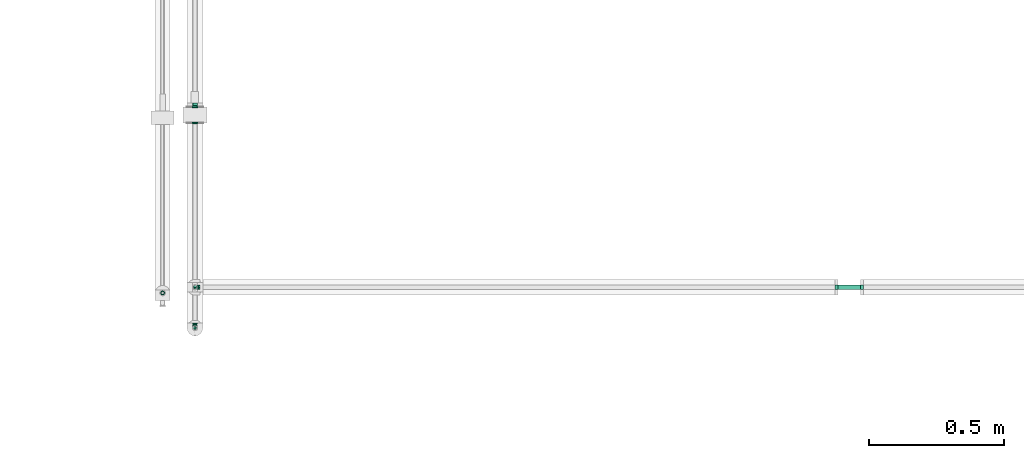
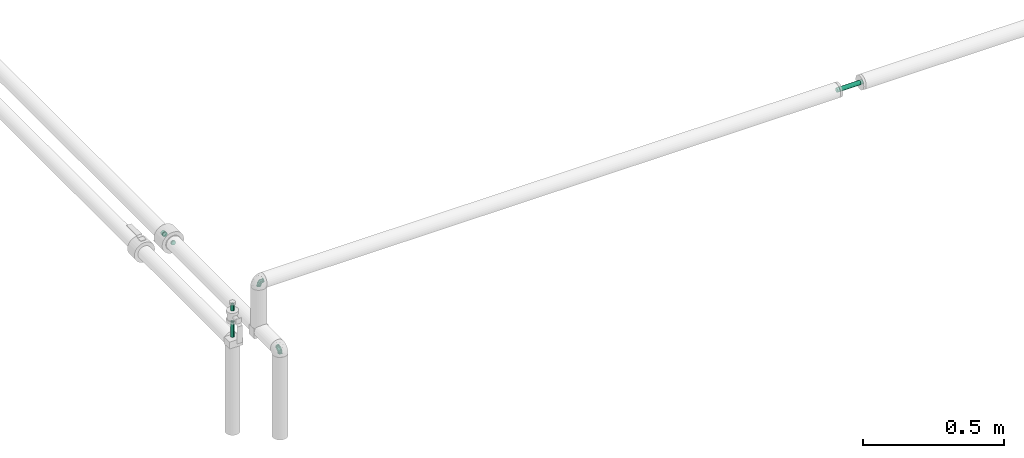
# One storey, part 43 of 78: 7 flow fittings, 4 flow segments.
"""IFC2X3 building model written with IfcOpenShell, lengths in millimetres."""

from ifc_helpers import new_model, entity, si_unit, converted_unit, derived_unit, direction, frame, origin_with_axes, origin_2d_with_axis, place, context, subcontext, project, spatial, hollow_circle, extrude, open_shell, surface_model, source, transform, mapped, type_object, element, save


model = new_model("IFC2X3")

# Units and contexts
model_context = context("Model", 3, precision=0.01, world=frame((0.0, 4.29681676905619e-09, 0.0)), true_north=direction((4.01073788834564e-13, 1.0)))
plan_context = context("Plan", 3, precision=0.01, world=frame((0.0, 4.29681676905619e-09, 0.0)), true_north=direction((4.01073788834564e-13, 1.0)))
body_context = subcontext(model_context, "Body", "Model", "MODEL_VIEW")
ifc_project = project(units=[converted_unit("PLANEANGLEUNIT", "DEGREE", entity("IfcPositiveLengthMeasure", 0.0174532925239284), si_unit("PLANEANGLEUNIT", "RADIAN"), dimensions=[0, 0, 0, 0, 0, 0, 0]), si_unit("AREAUNIT", "SQUARE_METRE"), si_unit("LENGTHUNIT", "METRE", prefix="MILLI"), si_unit("MASSUNIT", "GRAM", prefix="KILO"), si_unit("POWERUNIT", "WATT"), si_unit("PRESSUREUNIT", "PASCAL"), si_unit("FORCEUNIT", "NEWTON", prefix="KILO"), si_unit("ELECTRICVOLTAGEUNIT", "VOLT"), si_unit("ELECTRICCURRENTUNIT", "AMPERE"), si_unit("THERMODYNAMICTEMPERATUREUNIT", "DEGREE_CELSIUS"), si_unit("TIMEUNIT", "SECOND"), si_unit("VOLUMEUNIT", "CUBIC_METRE"), derived_unit("LINEARVELOCITYUNIT", [(si_unit("LENGTHUNIT", "METRE"), 1), (si_unit("TIMEUNIT", "SECOND"), -1)]), derived_unit("VOLUMETRICFLOWRATEUNIT", [(si_unit("VOLUMEUNIT", "CUBIC_METRE"), 1), (si_unit("TIMEUNIT", "SECOND"), -1)]), derived_unit("THERMALTRANSMITTANCEUNIT", [(si_unit("POWERUNIT", "WATT"), 1), (si_unit("THERMODYNAMICTEMPERATUREUNIT", "KELVIN"), -1), (si_unit("AREAUNIT", "SQUARE_METRE"), -1)]), derived_unit("SOUNDPRESSUREUNIT", [(si_unit("PRESSUREUNIT", "PASCAL"), 1)])], contexts=[model_context, plan_context])

# Site, building, storey
site_placement = place(None, frame((0.0, -4.29681676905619e-09, 0.0), z_axis=(0.0, 0.0, 1.0), x_axis=(1.0, 0.0, 0.0)))
site = spatial("IfcSite", under=ifc_project, at=site_placement, Name="ENGM", CompositionType="ELEMENT")
building_placement = place(site_placement, frame((0.0, 4.29681676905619e-09, 0.0), z_axis=(0.0, 0.0, 1.0), x_axis=(1.0, 0.0, 0.0)))
building = spatial("IfcBuilding", under=site, at=building_placement, Name="TH", CompositionType="ELEMENT")
storey_placement = place(building_placement, frame((0.0, 0.0, 205200.0), z_axis=(0.0, 0.0, 1.0), x_axis=(1.0, 0.0, 0.0)))
storey = spatial("IfcBuildingStorey", under=building, at=storey_placement, Name="Nivå D + 1,2 m", CompositionType="ELEMENT", Elevation=205200.0)

# Flow fittings
pipe_fitting_type_1 = type_object("IfcPipeFittingType", Name="magi_pipe_cu_elbow_short_001", PredefinedType="BEND")
shared_shape_1 = source(origin_with_axes(), body_context, "Body", "SurfaceModel", [
    surface_model("IfcShellBasedSurfaceModel", [(-18.0, 4.5, -7.79423), (-18.0, 2.32937, -8.69333), (-18.0, 0.0, -9.0), (-18.0, -6.36396, -6.36396), (-18.0, 8.69333, -2.32937), (-18.0, 7.79423, -4.5), (-18.0, 6.36396, -6.36396), (-18.0, -4.5, -7.79423), (-18.0, -2.32937, -8.69333), (-18.0, -7.79423, -4.5), (-18.0, -8.69333, -2.32937), (-18.0, -9.0, 0.0), (-18.0, 8.69333, 2.32937), (-18.0, -8.69333, 2.32937), (-18.0, 7.79423, 4.5), (-18.0, 6.36396, 6.36396), (-18.0, 2.32937, 8.69333), (-18.0, 4.5, 7.79423), (-18.0, -7.79423, 4.5), (-18.0, -6.36396, 6.36396), (-18.0, -4.5, 7.79423), (-18.0, -2.32937, 8.69333), (-18.0, 0.0, 9.0), (-18.0, 9.0, 0.0), (0.0, 18.0, -9.0), (-2.32937, 18.0, -8.69333), (-4.5, 18.0, -7.79423), (6.36396, 18.0, -6.36396), (-6.36396, 18.0, -6.36396), (-7.79423, 18.0, -4.5), (-8.69333, 18.0, -2.32937), (-8.69333, 18.0, 2.32937), (2.32937, 18.0, -8.69333), (4.5, 18.0, -7.79423), (8.69333, 18.0, -2.32937), (7.79423, 18.0, -4.5), (9.0, 18.0, 0.0), (7.79423, 18.0, 4.5), (-9.0, 18.0, 0.0), (-6.36396, 18.0, 6.36396), (-7.79423, 18.0, 4.5), (-4.5, 18.0, 7.79423), (-2.32937, 18.0, 8.69333), (6.36396, 18.0, 6.36396), (8.69333, 18.0, 2.32937), (2.32937, 18.0, 8.69333), (4.5, 18.0, 7.79423), (0.0, 18.0, 9.0), (-16.09014, -8.48825, 0.0), (-10.51068, -2.97249, 7.92278), (-10.36056, -6.95302, 0.0), (-4.5, -5.38269, 0.0), (0.44134, -0.44134, 0.0), (2.91201, 2.02933, 0.0), (-2.70211, 1.18586, 7.65564), (-2.02933, -2.91201, 0.0), (-14.18028, -7.97651, 0.0), (-7.11648, 7.11648, 8.61373), (-4.93977, 9.63211, 8.64898), (2.97249, 10.51068, 7.92278), (2.01286, 5.84889, 7.1903), (5.38269, 4.5, 0.0), (-5.73616, -2.07922, 7.10204), (8.48825, 16.09014, 0.0), (7.97651, 14.18028, 0.0), (-9.63211, 4.93977, 8.64898), (-10.31802, 14.81802, 0.0), (-14.81802, 10.31802, 0.0), (-11.63604, 11.63604, 0.0), (6.95302, 10.36056, 0.0), (-10.51068, -2.97249, -7.92278), (-4.93977, 9.63211, -8.64898), (0.8585, 4.1248, -7.1903), (-2.68792, 2.14037, -8.03971), (2.97249, 10.51068, -7.92278), (-13.67048, 7.29638, -6.27272), (-8.50355, 2.18787, -8.98901), (-9.83427, 8.11209, -7.36254)], [open_shell([[[0, 1, 2]], [[0, 2, 3]], [[0, 4, 5]], [[6, 0, 5]], [[4, 0, 3]], [[7, 3, 8]], [[3, 2, 8]], [[9, 10, 3]], [[11, 3, 10]], [[3, 11, 4]], [[11, 12, 4]], [[12, 11, 13]], [[14, 12, 15]], [[16, 17, 15]], [[13, 15, 12]], [[15, 18, 16]], [[18, 19, 16]], [[15, 13, 18]], [[20, 21, 19]], [[22, 19, 21]], [[16, 19, 22]], [[23, 4, 12]], [[24, 25, 26]], [[27, 24, 26]], [[28, 29, 30]], [[28, 30, 26]], [[26, 31, 27]], [[32, 27, 33]], [[32, 24, 27]], [[27, 34, 35]], [[34, 27, 36]], [[27, 37, 36]], [[26, 30, 38]], [[27, 31, 37]], [[39, 31, 40]], [[39, 41, 42]], [[39, 42, 31]], [[43, 31, 42]], [[31, 43, 37]], [[44, 36, 37]], [[43, 45, 46]], [[45, 43, 47]], [[47, 43, 42]], [[31, 26, 38]], [[13, 48, 18]], [[49, 50, 51]], [[52, 53, 54]], [[54, 55, 52]], [[20, 19, 56]], [[18, 56, 19]], [[57, 54, 58]], [[20, 50, 21]], [[22, 21, 50]], [[59, 60, 61]], [[59, 58, 60]], [[55, 54, 62]], [[22, 50, 49]], [[22, 49, 16]], [[62, 49, 51]], [[62, 51, 55]], [[37, 63, 44]], [[49, 17, 16]], [[64, 63, 37]], [[12, 65, 23]], [[14, 15, 49]], [[54, 65, 62]], [[17, 49, 15]], [[58, 38, 66]], [[67, 57, 68]], [[53, 60, 54]], [[45, 47, 69]], [[69, 46, 45]], [[39, 59, 41]], [[42, 59, 47]], [[43, 46, 64]], [[68, 57, 66]], [[64, 46, 69]], [[61, 60, 53]], [[44, 63, 36]], [[59, 61, 69]], [[38, 58, 31]], [[20, 56, 50]], [[54, 57, 65]], [[49, 65, 14]], [[66, 57, 58]], [[64, 37, 43]], [[40, 31, 58]], [[14, 65, 12]], [[39, 40, 59]], [[13, 11, 48]], [[40, 58, 59]], [[48, 56, 18]], [[41, 59, 42]], [[59, 69, 47]], [[49, 62, 65]], [[57, 67, 65]], [[54, 60, 58]], [[67, 23, 65]], [[70, 50, 2]], [[71, 72, 73]], [[74, 71, 29]], [[70, 1, 0]], [[70, 51, 50]], [[34, 36, 63]], [[75, 6, 5]], [[75, 4, 23]], [[5, 4, 75]], [[51, 76, 55]], [[75, 23, 67]], [[70, 6, 75]], [[48, 11, 10]], [[7, 56, 3]], [[2, 50, 8]], [[51, 70, 76]], [[56, 7, 50]], [[7, 8, 50]], [[70, 2, 1]], [[66, 38, 71]], [[52, 72, 53]], [[6, 70, 0]], [[70, 75, 76]], [[73, 52, 55]], [[71, 68, 66]], [[61, 53, 72]], [[33, 64, 69]], [[30, 71, 38]], [[28, 74, 29]], [[56, 9, 3]], [[26, 25, 74]], [[63, 64, 35]], [[56, 48, 9]], [[26, 74, 28]], [[9, 48, 10]], [[24, 74, 25]], [[32, 69, 24]], [[29, 71, 30]], [[27, 64, 33]], [[69, 32, 33]], [[68, 71, 77]], [[74, 24, 69]], [[35, 34, 63]], [[61, 72, 74]], [[61, 74, 69]], [[67, 77, 75]], [[74, 72, 71]], [[35, 64, 27]], [[76, 77, 73]], [[75, 77, 76]], [[77, 71, 73]], [[55, 76, 73]], [[72, 52, 73]], [[77, 67, 68]]])]),
])
for number, where, z_axis, x_axis, name in (
    (1, (900010.50163, 478124.37013, 4210.0), (-1.0, 0.0, 0.0), (0.0, 0.0, 1.0), "magi_pipe_cu_elbow_short_001"),
    (2, (900010.50163, 478275.49112, 4410.0), (0.0, 1.0, 0.0), (0.0, 0.0, 1.0), "magi_pipe_cu_elbow_short_001"),
):
    element("IfcFlowFitting", number, at=place(storey_placement, frame(where, z_axis=z_axis, x_axis=x_axis)), inside=storey, type_object=pipe_fitting_type_1, Name=name, context=body_context, shape_type="MappedRepresentation", body=[
        mapped(shared_shape_1, transform((0.0, 0.0, 0.0), scale=1.0)),
    ])
pipe_fitting_type_2 = type_object("IfcPipeFittingType", Name="magi_pipe_cu_reducer_centric_short_001", PredefinedType="TRANSITION")
shared_shape_2 = source(origin_with_axes(), body_context, "Body", "SurfaceModel", [
    surface_model("IfcShellBasedSurfaceModel", [(4.0, 4.5, -7.79423), (4.0, -6.36396, -6.36396), (4.0, 2.32937, -8.69333), (4.0, 8.69333, -2.32937), (4.0, 6.36396, -6.36396), (4.0, 7.79423, -4.5), (4.0, 7.79423, 4.5), (4.0, -8.69333, -2.32937), (4.0, 0.0, -9.0), (4.0, -4.5, -7.79423), (4.0, -2.32937, -8.69333), (4.0, -7.79423, -4.5), (4.0, 9.0, 0.0), (4.0, 8.69333, 2.32937), (4.0, -9.0, 0.0), (4.0, 0.0, 9.0), (4.0, 6.36396, 6.36396), (4.0, 4.5, 7.79423), (4.0, 2.32937, 8.69333), (4.0, -6.36396, 6.36396), (4.0, -8.69333, 2.32937), (4.0, -7.79423, 4.5), (4.0, -2.32937, 8.69333), (4.0, -4.5, 7.79423), (2.0, 0.0, 9.0), (2.0, 2.32937, 8.69333), (2.0, 4.5, 7.79423), (2.0, 6.36396, 6.36396), (2.0, -9.0, 0.0), (2.0, -8.69333, -2.32937), (2.0, 7.79423, 4.5), (2.0, -2.32937, 8.69333), (2.0, -6.36396, 6.36396), (2.0, -4.5, 7.79423), (2.0, -8.69333, 2.32937), (2.0, -7.79423, 4.5), (2.0, 8.69333, 2.32937), (2.0, 8.69333, -2.32937), (2.0, 6.36396, -6.36396), (2.0, 7.79423, -4.5), (2.0, 4.5, -7.79423), (2.0, 2.32937, -8.69333), (2.0, -4.5, -7.79423), (2.0, -6.36396, -6.36396), (2.0, -7.79423, -4.5), (2.0, 0.0, -9.0), (2.0, -2.32937, -8.69333), (2.0, 9.0, 0.0), (-2.0, 2.58819, 9.65926), (-2.0, -8.66025, 5.0), (-2.0, 0.0, 10.0), (-2.0, 5.0, 8.66025), (-2.0, -9.65926, -2.58819), (-2.0, 7.07107, -7.07107), (-2.0, 7.07107, 7.07107), (-2.0, 8.66025, 5.0), (-2.0, -9.65926, 2.58819), (-2.0, -2.58819, 9.65926), (-2.0, -7.07107, 7.07107), (-2.0, -5.0, 8.66025), (-2.0, -10.0, 0.0), (-2.0, 9.65926, 2.58819), (-2.0, 10.0, 0.0), (-2.0, 9.65926, -2.58819), (-2.0, 8.66025, -5.0), (-2.0, 5.0, -8.66025), (-2.0, -5.0, -8.66025), (-2.0, 0.0, -10.0), (-2.0, 2.58819, -9.65926), (-2.0, -7.07107, -7.07107), (-2.0, -8.66025, -5.0), (-2.0, -2.58819, -9.65926), (0.0, 5.0, -8.66025), (0.0, 0.0, -10.0), (0.0, 2.58819, -9.65926), (0.0, -10.0, 0.0), (0.0, 8.66025, 5.0), (0.0, 8.66025, -5.0), (0.0, 9.65926, -2.58819), (0.0, 7.07107, 7.07107), (0.0, 7.07107, -7.07107), (0.0, -5.0, -8.66025), (0.0, -2.58819, -9.65926), (0.0, -7.07107, -7.07107), (0.0, -9.65926, -2.58819), (0.0, -8.66025, -5.0), (0.0, 10.0, 0.0), (0.0, -9.65926, 2.58819), (0.0, 2.58819, 9.65926), (0.0, 5.0, 8.66025), (0.0, -8.66025, 5.0), (0.0, 0.0, 10.0), (0.0, -7.07107, 7.07107), (0.0, -2.58819, 9.65926), (0.0, -5.0, 8.66025), (0.0, 9.65926, 2.58819)], [open_shell([[[0, 1, 2]], [[3, 0, 4]], [[1, 0, 3]], [[3, 4, 5]], [[6, 7, 3]], [[8, 9, 10]], [[9, 8, 1]], [[1, 7, 11]], [[1, 8, 2]], [[3, 7, 1]], [[3, 12, 13]], [[14, 7, 6]], [[15, 6, 16]], [[17, 18, 15]], [[17, 15, 16]], [[19, 6, 15]], [[20, 19, 21]], [[19, 20, 14]], [[19, 22, 23]], [[19, 14, 6]], [[15, 22, 19]], [[6, 3, 13]], [[24, 25, 26]], [[24, 26, 27]], [[28, 24, 29]], [[30, 24, 27]], [[30, 29, 24]], [[31, 32, 33]], [[31, 24, 32]], [[32, 34, 35]], [[34, 32, 28]], [[24, 28, 32]], [[30, 36, 37]], [[29, 30, 37]], [[38, 37, 39]], [[37, 40, 29]], [[40, 37, 38]], [[41, 42, 40]], [[29, 43, 44]], [[29, 40, 43]], [[42, 45, 46]], [[42, 43, 40]], [[45, 42, 41]], [[37, 36, 47]], [[29, 7, 28]], [[44, 11, 29]], [[9, 43, 42]], [[44, 43, 1]], [[10, 42, 46]], [[29, 11, 7]], [[7, 14, 28]], [[10, 9, 42]], [[1, 43, 9]], [[1, 11, 44]], [[8, 10, 46]], [[46, 45, 8]], [[41, 2, 45]], [[40, 0, 41]], [[5, 38, 39]], [[40, 38, 4]], [[3, 39, 37]], [[40, 4, 0]], [[0, 2, 41]], [[12, 3, 37]], [[5, 39, 3]], [[5, 4, 38]], [[47, 12, 37]], [[45, 2, 8]], [[36, 13, 47]], [[30, 6, 36]], [[17, 27, 26]], [[30, 27, 16]], [[18, 26, 25]], [[36, 6, 13]], [[13, 12, 47]], [[18, 17, 26]], [[16, 27, 17]], [[16, 6, 30]], [[15, 18, 25]], [[25, 24, 15]], [[31, 22, 24]], [[33, 23, 31]], [[21, 32, 35]], [[33, 32, 19]], [[20, 35, 34]], [[33, 19, 23]], [[23, 22, 31]], [[14, 20, 34]], [[21, 35, 20]], [[21, 19, 32]], [[28, 14, 34]], [[24, 22, 15]], [[48, 49, 50]], [[51, 52, 48]], [[53, 54, 55]], [[51, 54, 52]], [[48, 52, 56]], [[57, 58, 59]], [[58, 57, 49]], [[48, 56, 49]], [[49, 57, 50]], [[52, 60, 56]], [[55, 61, 62]], [[62, 63, 64]], [[64, 53, 55]], [[54, 65, 66]], [[54, 53, 65]], [[67, 65, 68]], [[52, 69, 70]], [[69, 52, 66]], [[66, 67, 71]], [[52, 54, 66]], [[65, 67, 66]], [[62, 64, 55]], [[72, 73, 74]], [[75, 73, 72]], [[76, 77, 78]], [[79, 72, 80]], [[76, 80, 77]], [[73, 81, 82]], [[81, 73, 75]], [[83, 84, 85]], [[84, 83, 81]], [[81, 75, 84]], [[76, 78, 86]], [[76, 79, 80]], [[72, 79, 87]], [[87, 79, 88]], [[88, 79, 89]], [[90, 88, 91]], [[88, 90, 87]], [[75, 72, 87]], [[92, 93, 94]], [[93, 92, 90]], [[93, 90, 91]], [[76, 86, 95]], [[52, 84, 60]], [[70, 85, 52]], [[81, 69, 66]], [[70, 69, 83]], [[82, 66, 71]], [[52, 85, 84]], [[84, 75, 60]], [[82, 81, 66]], [[83, 69, 81]], [[83, 85, 70]], [[73, 82, 71]], [[71, 67, 73]], [[68, 74, 67]], [[65, 72, 68]], [[77, 53, 64]], [[65, 53, 80]], [[78, 64, 63]], [[65, 80, 72]], [[72, 74, 68]], [[86, 78, 63]], [[77, 64, 78]], [[77, 80, 53]], [[62, 86, 63]], [[67, 74, 73]], [[61, 95, 62]], [[55, 76, 61]], [[89, 54, 51]], [[55, 54, 79]], [[88, 51, 48]], [[61, 76, 95]], [[95, 86, 62]], [[88, 89, 51]], [[79, 54, 89]], [[79, 76, 55]], [[91, 88, 48]], [[48, 50, 91]], [[57, 93, 50]], [[59, 94, 57]], [[90, 58, 49]], [[59, 58, 92]], [[87, 49, 56]], [[59, 92, 94]], [[94, 93, 57]], [[75, 87, 56]], [[90, 49, 87]], [[90, 92, 58]], [[60, 75, 56]], [[50, 93, 91]], [[26, 33, 47]], [[47, 33, 42]], [[42, 40, 47]], [[42, 33, 28]], [[89, 75, 94]], [[75, 89, 72]], [[72, 81, 75]], [[72, 89, 86]], [[47, 40, 86]], [[72, 86, 40]], [[40, 42, 72]], [[42, 28, 81]], [[75, 81, 28]], [[42, 81, 72]], [[28, 33, 75]], [[94, 75, 33]], [[33, 26, 94]], [[26, 47, 89]], [[86, 89, 47]], [[26, 89, 94]]])]),
])
flow_fitting_1_placement = place(storey_placement, frame((900010.50163, 478884.96045, 4210.0), z_axis=(0.0, 0.0, 1.0), x_axis=(0.0, -1.0, 0.0)))
element("IfcFlowFitting", 3, at=flow_fitting_1_placement, inside=storey, type_object=pipe_fitting_type_2, Name="magi_pipe_cu_reducer_centric_short_001", context=body_context, shape_type="MappedRepresentation", body=[
    mapped(shared_shape_2, transform((0.0, 0.0, 0.0), scale=1.0)),
])
pipe_fitting_type_3 = type_object("IfcPipeFittingType", Name="magi_pipe_cu_joint_001", PredefinedType="CONNECTOR")
shared_shape_3 = source(origin_with_axes(), body_context, "Body", "SurfaceModel", [
    surface_model("IfcShellBasedSurfaceModel", [(0.0, 4.5, -7.79423), (0.0, 2.32937, -8.69333), (0.0, 0.0, -9.0), (0.0, -9.0, 0.0), (0.0, -4.5, 7.79423), (0.0, 6.36396, -6.36396), (0.0, 7.79423, -4.5), (0.0, 9.0, 0.0), (0.0, -4.5, -7.79423), (0.0, -6.36396, -6.36396), (0.0, -2.32937, -8.69333), (0.0, -7.79423, -4.5), (0.0, -8.69333, -2.32937), (0.0, 8.69333, -2.32937), (0.0, 8.69333, 2.32937), (0.0, 2.32937, 8.69333), (0.0, 7.79423, 4.5), (0.0, 4.5, 7.79423), (0.0, 6.36396, 6.36396), (0.0, 0.0, 9.0), (0.0, -6.36396, 6.36396), (0.0, -7.79423, 4.5), (0.0, -8.69333, 2.32937), (0.0, -2.32937, 8.69333), (10.0, 0.0, -9.0), (10.0, 2.32937, -8.69333), (10.0, 4.5, -7.79423), (10.0, -9.0, 0.0), (10.0, -4.5, 7.79423), (10.0, 7.79423, -4.5), (10.0, 6.36396, -6.36396), (10.0, 8.69333, 2.32937), (10.0, -4.5, -7.79423), (10.0, -2.32937, -8.69333), (10.0, -6.36396, -6.36396), (10.0, -8.69333, -2.32937), (10.0, -7.79423, -4.5), (10.0, 8.69333, -2.32937), (10.0, 9.0, 0.0), (10.0, 2.32937, 8.69333), (10.0, 7.79423, 4.5), (10.0, 4.5, 7.79423), (10.0, 6.36396, 6.36396), (10.0, -7.79423, 4.5), (10.0, -6.36396, 6.36396), (10.0, -8.69333, 2.32937), (10.0, 0.0, 9.0), (10.0, -2.32937, 8.69333)], [open_shell([[[0, 1, 2]], [[2, 3, 4]], [[0, 2, 4]], [[5, 0, 6]], [[7, 6, 0]], [[8, 9, 10]], [[9, 2, 10]], [[11, 12, 9]], [[3, 9, 12]], [[9, 3, 2]], [[7, 13, 6]], [[14, 7, 15]], [[16, 14, 15]], [[16, 15, 17]], [[18, 16, 17]], [[19, 15, 7]], [[20, 4, 21]], [[3, 22, 21]], [[23, 19, 4]], [[21, 4, 3]], [[0, 4, 19]], [[19, 7, 0]], [[24, 25, 26]], [[27, 24, 26]], [[27, 26, 28]], [[29, 26, 30]], [[26, 29, 31]], [[24, 32, 33]], [[24, 34, 32]], [[34, 35, 36]], [[35, 34, 27]], [[24, 27, 34]], [[29, 37, 38]], [[28, 26, 31]], [[39, 31, 40]], [[41, 39, 40]], [[41, 40, 42]], [[28, 31, 39]], [[43, 28, 44]], [[43, 45, 27]], [[28, 46, 47]], [[27, 28, 43]], [[39, 46, 28]], [[29, 38, 31]], [[45, 3, 27]], [[43, 22, 45]], [[20, 44, 28]], [[43, 44, 21]], [[4, 28, 47]], [[43, 21, 22]], [[22, 3, 45]], [[23, 46, 19]], [[23, 4, 47]], [[20, 28, 4]], [[20, 21, 44]], [[46, 23, 47]], [[41, 15, 39]], [[42, 17, 41]], [[16, 40, 31]], [[42, 40, 18]], [[14, 31, 38]], [[41, 17, 15]], [[15, 19, 39]], [[14, 16, 31]], [[18, 40, 16]], [[18, 17, 42]], [[7, 14, 38]], [[39, 19, 46]], [[37, 7, 38]], [[29, 13, 37]], [[5, 30, 26]], [[29, 30, 6]], [[0, 26, 25]], [[29, 6, 13]], [[13, 7, 37]], [[1, 24, 2]], [[1, 0, 25]], [[5, 26, 0]], [[5, 6, 30]], [[24, 1, 25]], [[32, 10, 33]], [[34, 8, 32]], [[11, 36, 35]], [[34, 36, 9]], [[12, 35, 27]], [[32, 8, 10]], [[10, 2, 33]], [[12, 11, 35]], [[9, 36, 11]], [[9, 8, 34]], [[3, 12, 27]], [[33, 2, 24]]])]),
])
for number, where, z_axis, x_axis, name in (
    (4, (900010.50163, 478957.96045, 4210.0), (0.0, 0.0, 1.0), (0.0, -1.0, 0.0), "magi_pipe_cu_joint_001"),
    (5, (902383.50163, 478275.49112, 4410.0), (0.0, 0.0, 1.0), (1.0, 0.0, 0.0), "magi_pipe_cu_joint_001"),
    (6, (902478.50163, 478275.49112, 4410.0), (0.0, 0.0, 1.0), (1.0, 0.0, 0.0), "magi_pipe_cu_joint_001"),
):
    element("IfcFlowFitting", number, at=place(storey_placement, frame(where, z_axis=z_axis, x_axis=x_axis)), inside=storey, type_object=pipe_fitting_type_3, Name=name, context=body_context, shape_type="MappedRepresentation", body=[
        mapped(shared_shape_3, transform((0.0, 0.0, 0.0), scale=1.0)),
    ])
shared_shape_4 = source(origin_with_axes(), body_context, "Body", "SurfaceModel", [
    surface_model("IfcShellBasedSurfaceModel", [(-2.0, 0.0, 9.0), (-2.0, 2.32937, 8.69333), (-2.0, 4.5, 7.79423), (-2.0, 6.36396, 6.36396), (-2.0, -9.0, 0.0), (-2.0, -8.69333, -2.32937), (-2.0, 7.79423, 4.5), (-2.0, -2.32937, 8.69333), (-2.0, -6.36396, 6.36396), (-2.0, -4.5, 7.79423), (-2.0, -8.69333, 2.32937), (-2.0, -7.79423, 4.5), (-2.0, 8.69333, 2.32937), (-2.0, 8.69333, -2.32937), (-2.0, 6.36396, -6.36396), (-2.0, 7.79423, -4.5), (-2.0, 4.5, -7.79423), (-2.0, 2.32937, -8.69333), (-2.0, -4.5, -7.79423), (-2.0, -6.36396, -6.36396), (-2.0, -7.79423, -4.5), (-2.0, 0.0, -9.0), (-2.0, -2.32937, -8.69333), (-2.0, 9.0, 0.0), (0.0, 4.5, -7.79423), (0.0, -6.36396, -6.36396), (0.0, 2.32937, -8.69333), (0.0, 8.69333, -2.32937), (0.0, 6.36396, -6.36396), (0.0, 7.79423, -4.5), (0.0, 7.79423, 4.5), (0.0, -8.69333, -2.32937), (0.0, 0.0, -9.0), (0.0, -4.5, -7.79423), (0.0, -2.32937, -8.69333), (0.0, -7.79423, -4.5), (0.0, 9.0, 0.0), (0.0, 8.69333, 2.32937), (0.0, -9.0, 0.0), (0.0, 0.0, 9.0), (0.0, 6.36396, 6.36396), (0.0, 4.5, 7.79423), (0.0, 2.32937, 8.69333), (0.0, -6.36396, 6.36396), (0.0, -8.69333, 2.32937), (0.0, -7.79423, 4.5), (0.0, -2.32937, 8.69333), (0.0, -4.5, 7.79423), (4.0, 2.58819, -9.65926), (4.0, 5.0, -8.66025), (4.0, 7.07107, -7.07107), (4.0, 8.66025, -5.0), (4.0, 9.65926, -2.58819), (4.0, 10.0, 0.0), (4.0, -8.66025, 5.0), (4.0, -2.58819, -9.65926), (4.0, -8.66025, -5.0), (4.0, -5.0, -8.66025), (4.0, 0.0, -10.0), (4.0, -7.07107, -7.07107), (4.0, -10.0, 0.0), (4.0, -9.65926, -2.58819), (4.0, 9.65926, 2.58819), (4.0, 8.66025, 5.0), (4.0, 7.07107, 7.07107), (4.0, 5.0, 8.66025), (4.0, 2.58819, 9.65926), (4.0, 0.0, 10.0), (4.0, -7.07107, 7.07107), (4.0, -9.65926, 2.58819), (4.0, -5.0, 8.66025), (4.0, -2.58819, 9.65926), (2.0, 0.0, 10.0), (2.0, 2.58819, 9.65926), (2.0, 5.0, 8.66025), (2.0, -5.0, 8.66025), (2.0, 7.07107, 7.07107), (2.0, 8.66025, 5.0), (2.0, 9.65926, 2.58819), (2.0, -9.65926, 2.58819), (2.0, -7.07107, 7.07107), (2.0, -2.58819, 9.65926), (2.0, -8.66025, 5.0), (2.0, -10.0, 0.0), (2.0, 10.0, 0.0), (2.0, 9.65926, -2.58819), (2.0, 8.66025, -5.0), (2.0, 2.58819, -9.65926), (2.0, 7.07107, -7.07107), (2.0, 5.0, -8.66025), (2.0, -2.58819, -9.65926), (2.0, -9.65926, -2.58819), (2.0, -7.07107, -7.07107), (2.0, -8.66025, -5.0), (2.0, -5.0, -8.66025), (2.0, 0.0, -10.0)], [open_shell([[[0, 1, 2]], [[0, 2, 3]], [[4, 0, 5]], [[6, 0, 3]], [[6, 5, 0]], [[7, 8, 9]], [[7, 0, 8]], [[8, 10, 11]], [[10, 8, 4]], [[0, 4, 8]], [[6, 12, 13]], [[5, 6, 13]], [[14, 13, 15]], [[13, 16, 5]], [[16, 13, 14]], [[17, 18, 16]], [[5, 19, 20]], [[5, 16, 19]], [[18, 21, 22]], [[18, 19, 16]], [[21, 18, 17]], [[13, 12, 23]], [[24, 25, 26]], [[27, 24, 28]], [[25, 24, 27]], [[27, 28, 29]], [[30, 31, 27]], [[32, 33, 34]], [[33, 32, 25]], [[25, 31, 35]], [[25, 32, 26]], [[27, 31, 25]], [[27, 36, 37]], [[38, 31, 30]], [[39, 30, 40]], [[41, 42, 39]], [[41, 39, 40]], [[43, 30, 39]], [[44, 43, 45]], [[43, 44, 38]], [[43, 46, 47]], [[43, 38, 30]], [[39, 46, 43]], [[30, 27, 37]], [[5, 31, 4]], [[20, 35, 5]], [[33, 19, 18]], [[20, 19, 25]], [[34, 18, 22]], [[5, 35, 31]], [[31, 38, 4]], [[34, 33, 18]], [[25, 19, 33]], [[25, 35, 20]], [[32, 34, 22]], [[22, 21, 32]], [[17, 26, 21]], [[16, 24, 17]], [[29, 14, 15]], [[16, 14, 28]], [[27, 15, 13]], [[16, 28, 24]], [[24, 26, 17]], [[36, 27, 13]], [[29, 15, 27]], [[29, 28, 14]], [[23, 36, 13]], [[21, 26, 32]], [[12, 37, 23]], [[6, 30, 12]], [[41, 3, 2]], [[6, 3, 40]], [[42, 2, 1]], [[12, 30, 37]], [[37, 36, 23]], [[42, 41, 2]], [[40, 3, 41]], [[40, 30, 6]], [[39, 42, 1]], [[1, 0, 39]], [[7, 46, 0]], [[9, 47, 7]], [[45, 8, 11]], [[9, 8, 43]], [[44, 11, 10]], [[9, 43, 47]], [[47, 46, 7]], [[38, 44, 10]], [[45, 11, 44]], [[45, 43, 8]], [[4, 38, 10]], [[0, 46, 39]], [[48, 49, 50]], [[48, 50, 51]], [[52, 53, 48]], [[52, 48, 51]], [[54, 55, 48]], [[55, 56, 57]], [[55, 58, 48]], [[57, 56, 59]], [[56, 55, 54]], [[60, 61, 56]], [[54, 48, 53]], [[62, 63, 64]], [[62, 64, 65]], [[65, 66, 67]], [[62, 65, 54]], [[68, 65, 67]], [[60, 54, 69]], [[56, 54, 60]], [[67, 70, 68]], [[54, 65, 68]], [[71, 70, 67]], [[54, 53, 62]], [[72, 73, 74]], [[75, 72, 74]], [[76, 77, 78]], [[75, 74, 76]], [[75, 76, 78]], [[75, 79, 80]], [[75, 81, 72]], [[80, 79, 82]], [[79, 75, 83]], [[78, 83, 75]], [[78, 84, 83]], [[84, 85, 86]], [[84, 86, 87]], [[88, 89, 87]], [[88, 87, 86]], [[87, 90, 83]], [[91, 92, 93]], [[92, 91, 94]], [[91, 90, 94]], [[83, 90, 91]], [[87, 95, 90]], [[83, 84, 87]], [[91, 61, 83]], [[93, 56, 91]], [[57, 92, 94]], [[93, 92, 59]], [[55, 94, 90]], [[91, 56, 61]], [[61, 60, 83]], [[55, 57, 94]], [[59, 92, 57]], [[59, 56, 93]], [[58, 55, 90]], [[90, 95, 58]], [[87, 48, 95]], [[89, 49, 87]], [[51, 88, 86]], [[89, 88, 50]], [[52, 86, 85]], [[89, 50, 49]], [[49, 48, 87]], [[53, 52, 85]], [[51, 86, 52]], [[51, 50, 88]], [[84, 53, 85]], [[95, 48, 58]], [[78, 62, 84]], [[77, 63, 78]], [[65, 76, 74]], [[77, 76, 64]], [[66, 74, 73]], [[78, 63, 62]], [[62, 53, 84]], [[66, 65, 74]], [[64, 76, 65]], [[64, 63, 77]], [[67, 66, 73]], [[73, 72, 67]], [[81, 71, 72]], [[75, 70, 81]], [[54, 80, 82]], [[75, 80, 68]], [[69, 82, 79]], [[75, 68, 70]], [[70, 71, 81]], [[60, 69, 79]], [[54, 82, 69]], [[54, 68, 80]], [[83, 60, 79]], [[72, 71, 67]], [[74, 89, 84]], [[83, 74, 75]], [[83, 94, 89]], [[83, 89, 74]], [[38, 47, 33]], [[36, 47, 41]], [[36, 24, 33]], [[36, 33, 47]], [[38, 33, 94]], [[94, 83, 38]], [[33, 89, 94]], [[24, 36, 84]], [[84, 89, 24]], [[24, 89, 33]], [[36, 41, 74]], [[74, 84, 36]], [[41, 75, 74]], [[47, 38, 83]], [[83, 75, 47]], [[47, 75, 41]]])]),
])
flow_fitting_2_placement = place(storey_placement, frame((900010.50163, 478944.96045, 4210.0), z_axis=(0.0, 0.0, 1.0), x_axis=(0.0, -1.0, 0.0)))
element("IfcFlowFitting", 7, at=flow_fitting_2_placement, inside=storey, type_object=pipe_fitting_type_2, Name="magi_pipe_cu_reducer_centric_short_001", context=body_context, shape_type="MappedRepresentation", body=[
    mapped(shared_shape_4, transform((0.0, 0.0, 0.0), scale=1.0)),
])

# Flow segments
pipe_segment_type = type_object("IfcPipeSegmentType", Name="Kobberrør", PredefinedType="RIGIDSEGMENT")
shared_shape_5 = source(origin_with_axes(), body_context, "Body", "SweptSolid", [
    extrude(hollow_circle(Radius=9.0, WallThickness=2.0, at=origin_2d_with_axis()), frame((0.0, 0.0, 0.0), z_axis=(1.0, 0.0, 0.0), x_axis=(0.0, 1.0, 0.0)), (0.0, 0.0, 1.0), 3.0),
])
flow_segment_1_placement = place(storey_placement, frame((900010.50163, 478947.96045, 4210.0), z_axis=(0.0, 0.0, 1.0), x_axis=(0.0, -1.0, 0.0)))
element("IfcFlowSegment", 8, at=flow_segment_1_placement, inside=storey, type_object=pipe_segment_type, Name="Kobberrør", context=body_context, shape_type="MappedRepresentation", body=[
    mapped(shared_shape_5, transform((0.0, 0.0, 0.0), scale=1.0)),
])
shared_shape_6 = source(origin_with_axes(), body_context, "Body", "SweptSolid", [
    extrude(hollow_circle(Radius=9.0, WallThickness=2.0, at=origin_2d_with_axis()), frame((0.0, 0.0, 0.0), z_axis=(1.0, 0.0, 0.0), x_axis=(0.0, 1.0, 0.0)), (0.0, 0.0, 1.0), 85.0),
])
flow_segment_2_placement = place(storey_placement, frame((902393.50163, 478275.49112, 4410.0), z_axis=(0.0, 0.0, 1.0), x_axis=(1.0, 0.0, 0.0)))
element("IfcFlowSegment", 9, at=flow_segment_2_placement, inside=storey, type_object=pipe_segment_type, Name="Kobberrør", context=body_context, shape_type="MappedRepresentation", body=[
    mapped(shared_shape_6, transform((0.0, 0.0, 0.0), scale=1.0)),
])
shared_shape_7 = source(origin_with_axes(), body_context, "Body", "SweptSolid", [
    extrude(hollow_circle(Radius=7.5, WallThickness=2.0, at=origin_2d_with_axis()), frame((0.0, 0.0, 0.0), z_axis=(1.0, 0.0, 0.0), x_axis=(0.0, 1.0, 0.0)), (0.0, 0.0, 1.0), 26.2),
])
flow_segment_3_placement = place(storey_placement, frame((899890.50163, 478254.37338, 4341.59280000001), z_axis=(0.0, -1.0, 0.0), x_axis=(0.0, 0.0, 1.0)))
element("IfcFlowSegment", 10, at=flow_segment_3_placement, inside=storey, type_object=pipe_segment_type, Name="Kobberrør", context=body_context, shape_type="MappedRepresentation", body=[
    mapped(shared_shape_7, transform((0.0, 0.0, 0.0), scale=1.0)),
])
shared_shape_8 = source(origin_with_axes(), body_context, "Body", "SweptSolid", [
    extrude(hollow_circle(Radius=7.5, WallThickness=2.0, at=origin_2d_with_axis()), frame((0.0, 0.0, 0.0), z_axis=(1.0, 0.0, 0.0), x_axis=(0.0, 1.0, 0.0)), (0.0, 0.0, 1.0), 64.8),
])
flow_segment_4_placement = place(storey_placement, frame((899890.50163, 478254.37338, 4227.79203000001), z_axis=(0.0, -1.0, 0.0), x_axis=(0.0, 0.0, 1.0)))
element("IfcFlowSegment", 11, at=flow_segment_4_placement, inside=storey, type_object=pipe_segment_type, Name="Kobberrør", context=body_context, shape_type="MappedRepresentation", body=[
    mapped(shared_shape_8, transform((0.0, 0.0, 0.0), scale=1.0)),
])

save(model, "model.ifc")
